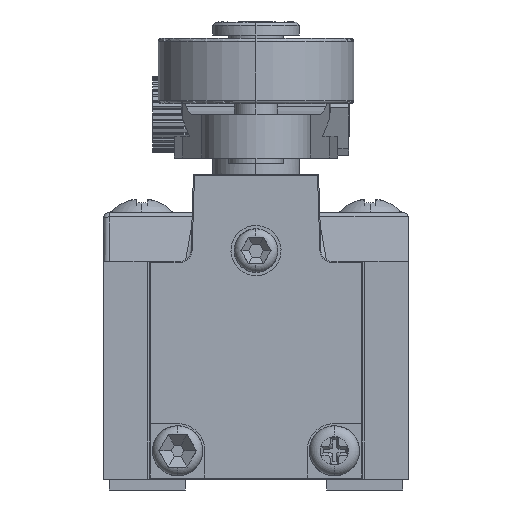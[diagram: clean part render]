
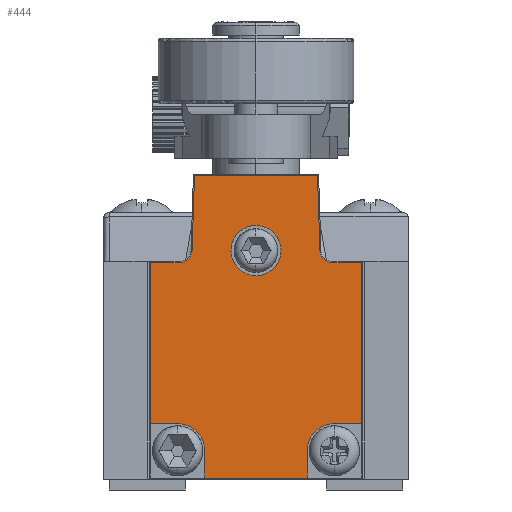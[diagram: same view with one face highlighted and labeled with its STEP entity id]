
A CAD part, left-side view. The second image highlights one B-rep face of the part: STEP entity #444.
In plain terms, the highlighted planar face has unit normal (-1, 0, 0).
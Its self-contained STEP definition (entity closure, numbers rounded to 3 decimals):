
#444=ADVANCED_FACE('',(#3327,#3329),#3331,.T.);
#3327=FACE_BOUND('',#3328,.T.);
#3328=EDGE_LOOP('',(#8151,#8152));
#3329=FACE_OUTER_BOUND('',#3330,.T.);
#3330=EDGE_LOOP('',(#8153,#8154,#8155,#8156,#8157,#8158,#8159,#8160,#8161,#8162,
#8163,#8164,#8165,#8166,#8167,#8168));
#3331=PLANE('',#3332);
#3332=AXIS2_PLACEMENT_3D('',#3333,#3334,#3335);
#3333=CARTESIAN_POINT('',(-20.,0.,0.));
#3334=DIRECTION('',(-1.,0.,0.));
#3335=DIRECTION('',(0.,0.,-1.));
#8151=ORIENTED_EDGE('',*,*,#11094,.T.);
#8152=ORIENTED_EDGE('',*,*,#11095,.T.);
#8153=ORIENTED_EDGE('',*,*,#11096,.F.);
#8154=ORIENTED_EDGE('',*,*,#11097,.T.);
#8155=ORIENTED_EDGE('',*,*,#10975,.T.);
#8156=ORIENTED_EDGE('',*,*,#11098,.T.);
#8157=ORIENTED_EDGE('',*,*,#11099,.F.);
#8158=ORIENTED_EDGE('',*,*,#11100,.T.);
#8159=ORIENTED_EDGE('',*,*,#10969,.T.);
#8160=ORIENTED_EDGE('',*,*,#10964,.T.);
#8161=ORIENTED_EDGE('',*,*,#10962,.T.);
#8162=ORIENTED_EDGE('',*,*,#10960,.T.);
#8163=ORIENTED_EDGE('',*,*,#10958,.T.);
#8164=ORIENTED_EDGE('',*,*,#10984,.T.);
#8165=ORIENTED_EDGE('',*,*,#10982,.T.);
#8166=ORIENTED_EDGE('',*,*,#10980,.T.);
#8167=ORIENTED_EDGE('',*,*,#10977,.T.);
#8168=ORIENTED_EDGE('',*,*,#11101,.T.);
#10958=EDGE_CURVE('',#13613,#13611,#13614,.T.);
#10960=EDGE_CURVE('',#13616,#13613,#13617,.T.);
#10962=EDGE_CURVE('',#13619,#13616,#13620,.T.);
#10964=EDGE_CURVE('',#13622,#13619,#13623,.T.);
#10969=EDGE_CURVE('',#13625,#13622,#13631,.T.);
#10975=EDGE_CURVE('',#13632,#13640,#13642,.T.);
#10977=EDGE_CURVE('',#13646,#13644,#13647,.T.);
#10980=EDGE_CURVE('',#13650,#13646,#13651,.T.);
#10982=EDGE_CURVE('',#13653,#13650,#13654,.T.);
#10984=EDGE_CURVE('',#13611,#13653,#13656,.T.);
#11094=EDGE_CURVE('',#13828,#13829,#13830,.F.);
#11095=EDGE_CURVE('',#13829,#13828,#13831,.F.);
#11096=EDGE_CURVE('',#13832,#13833,#13834,.T.);
#11097=EDGE_CURVE('',#13832,#13632,#13835,.F.);
#11098=EDGE_CURVE('',#13640,#13836,#13837,.F.);
#11099=EDGE_CURVE('',#13838,#13836,#13839,.T.);
#11100=EDGE_CURVE('',#13838,#13625,#13840,.F.);
#11101=EDGE_CURVE('',#13644,#13833,#13841,.F.);
#13611=VERTEX_POINT('',#19199);
#13613=VERTEX_POINT('',#19203);
#13614=LINE('',#19204,#19205);
#13616=VERTEX_POINT('',#19210);
#13617=LINE('',#19211,#19212);
#13619=VERTEX_POINT('',#19217);
#13620=CIRCLE('',#19218,1.1);
#13622=VERTEX_POINT('',#19225);
#13623=LINE('',#19226,#19227);
#13625=VERTEX_POINT('',#19232);
#13631=LINE('',#19244,#19245);
#13632=VERTEX_POINT('',#19247);
#13640=VERTEX_POINT('',#19263);
#13642=LINE('',#19267,#19268);
#13644=VERTEX_POINT('',#19271);
#13646=VERTEX_POINT('',#19275);
#13647=LINE('',#19276,#19277);
#13650=VERTEX_POINT('',#19285);
#13651=LINE('',#19286,#19287);
#13653=VERTEX_POINT('',#19292);
#13654=CIRCLE('',#19293,1.1);
#13656=LINE('',#19300,#19301);
#13828=VERTEX_POINT('',#19734);
#13829=VERTEX_POINT('',#19735);
#13830=(BOUNDED_CURVE()B_SPLINE_CURVE(3,
(#19736,#19737,#19738,#19739),
.UNSPECIFIED.,.F.,.F.)B_SPLINE_CURVE_WITH_KNOTS((4,4),
(0.,1.),
.UNSPECIFIED.)CURVE()GEOMETRIC_REPRESENTATION_ITEM()RATIONAL_B_SPLINE_CURVE((1.,
0.333,0.333,1.))REPRESENTATION_ITEM(''));
#13831=(BOUNDED_CURVE()B_SPLINE_CURVE(3,
(#19740,#19741,#19742,#19743),
.UNSPECIFIED.,.F.,.F.)B_SPLINE_CURVE_WITH_KNOTS((4,4),
(0.,1.),
.UNSPECIFIED.)CURVE()GEOMETRIC_REPRESENTATION_ITEM()RATIONAL_B_SPLINE_CURVE((1.,
0.333,0.333,1.))REPRESENTATION_ITEM(''));
#13832=VERTEX_POINT('',#19744);
#13833=VERTEX_POINT('',#19745);
#13834=CIRCLE('',#19746,2.5);
#13835=LINE('',#19750,#19751);
#13836=VERTEX_POINT('',#19753);
#13837=LINE('',#19754,#19755);
#13838=VERTEX_POINT('',#19757);
#13839=CIRCLE('',#19758,2.5);
#13840=LINE('',#19762,#19763);
#13841=LINE('',#19765,#19766);
#19199=CARTESIAN_POINT('',(-20.,5.653,27.9));
#19203=CARTESIAN_POINT('',(-20.,-5.653,27.9));
#19204=CARTESIAN_POINT('',(-20.,-5.653,27.9));
#19205=VECTOR('',#19206,1.);
#19206=DIRECTION('',(0.,1.,0.));
#19210=CARTESIAN_POINT('',(-20.,-5.87,20.966));
#19211=CARTESIAN_POINT('',(-20.,-5.87,20.966));
#19212=VECTOR('',#19213,1.);
#19213=DIRECTION('',(0.,0.031,1.));
#19217=CARTESIAN_POINT('',(-20.,-6.969,19.9));
#19218=AXIS2_PLACEMENT_3D('',#19219,#19220,#19221);
#19219=CARTESIAN_POINT('',(-20.,-6.969,21.));
#19220=DIRECTION('',(1.,0.,0.));
#19221=DIRECTION('',(0.,0.,-1.));
#19225=CARTESIAN_POINT('',(-20.,-9.7,19.9));
#19226=CARTESIAN_POINT('',(-20.,-9.7,19.9));
#19227=VECTOR('',#19228,1.);
#19228=DIRECTION('',(0.,1.,0.));
#19232=CARTESIAN_POINT('',(-20.,-9.7,5.1));
#19244=CARTESIAN_POINT('',(-20.,-9.7,5.1));
#19245=VECTOR('',#19246,1.);
#19246=DIRECTION('',(0.,0.,1.));
#19247=CARTESIAN_POINT('',(-20.,4.7,0.1));
#19263=CARTESIAN_POINT('',(-20.,-4.7,0.1));
#19267=CARTESIAN_POINT('',(-20.,4.7,0.1));
#19268=VECTOR('',#19269,1.);
#19269=DIRECTION('',(0.,-1.,0.));
#19271=CARTESIAN_POINT('',(-20.,9.7,5.1));
#19275=CARTESIAN_POINT('',(-20.,9.7,19.9));
#19276=CARTESIAN_POINT('',(-20.,9.7,19.9));
#19277=VECTOR('',#19278,1.);
#19278=DIRECTION('',(0.,0.,-1.));
#19285=CARTESIAN_POINT('',(-20.,6.969,19.9));
#19286=CARTESIAN_POINT('',(-20.,6.969,19.9));
#19287=VECTOR('',#19288,1.);
#19288=DIRECTION('',(0.,1.,0.));
#19292=CARTESIAN_POINT('',(-20.,5.87,20.966));
#19293=AXIS2_PLACEMENT_3D('',#19294,#19295,#19296);
#19294=CARTESIAN_POINT('',(-20.,6.969,21.));
#19295=DIRECTION('',(1.,0.,0.));
#19296=DIRECTION('',(0.,0.,-1.));
#19300=CARTESIAN_POINT('',(-20.,5.653,27.9));
#19301=VECTOR('',#19302,1.);
#19302=DIRECTION('',(0.,0.031,-1.));
#19734=CARTESIAN_POINT('',(-20.,0.,18.7));
#19735=CARTESIAN_POINT('',(-20.,0.,23.3));
#19736=CARTESIAN_POINT('',(-20.,0.,23.3));
#19737=CARTESIAN_POINT('',(-20.,4.6,23.3));
#19738=CARTESIAN_POINT('',(-20.,4.6,18.7));
#19739=CARTESIAN_POINT('',(-20.,0.,18.7));
#19740=CARTESIAN_POINT('',(-20.,0.,18.7));
#19741=CARTESIAN_POINT('',(-20.,-4.6,18.7));
#19742=CARTESIAN_POINT('',(-20.,-4.6,23.3));
#19743=CARTESIAN_POINT('',(-20.,0.,23.3));
#19744=CARTESIAN_POINT('',(-20.,4.7,2.6));
#19745=CARTESIAN_POINT('',(-20.,7.2,5.1));
#19746=AXIS2_PLACEMENT_3D('',#19747,#19748,#19749);
#19747=CARTESIAN_POINT('',(-20.,7.2,2.6));
#19748=DIRECTION('',(-1.,0.,0.));
#19749=DIRECTION('',(0.,0.,-1.));
#19750=CARTESIAN_POINT('',(-20.,4.7,0.1));
#19751=VECTOR('',#19752,1.);
#19752=DIRECTION('',(0.,0.,1.));
#19753=CARTESIAN_POINT('',(-20.,-4.7,2.6));
#19754=CARTESIAN_POINT('',(-20.,-4.7,2.6));
#19755=VECTOR('',#19756,1.);
#19756=DIRECTION('',(0.,0.,-1.));
#19757=CARTESIAN_POINT('',(-20.,-7.2,5.1));
#19758=AXIS2_PLACEMENT_3D('',#19759,#19760,#19761);
#19759=CARTESIAN_POINT('',(-20.,-7.2,2.6));
#19760=DIRECTION('',(-1.,0.,0.));
#19761=DIRECTION('',(0.,0.,-1.));
#19762=CARTESIAN_POINT('',(-20.,-9.7,5.1));
#19763=VECTOR('',#19764,1.);
#19764=DIRECTION('',(0.,1.,0.));
#19765=CARTESIAN_POINT('',(-20.,7.2,5.1));
#19766=VECTOR('',#19767,1.);
#19767=DIRECTION('',(0.,1.,0.));
